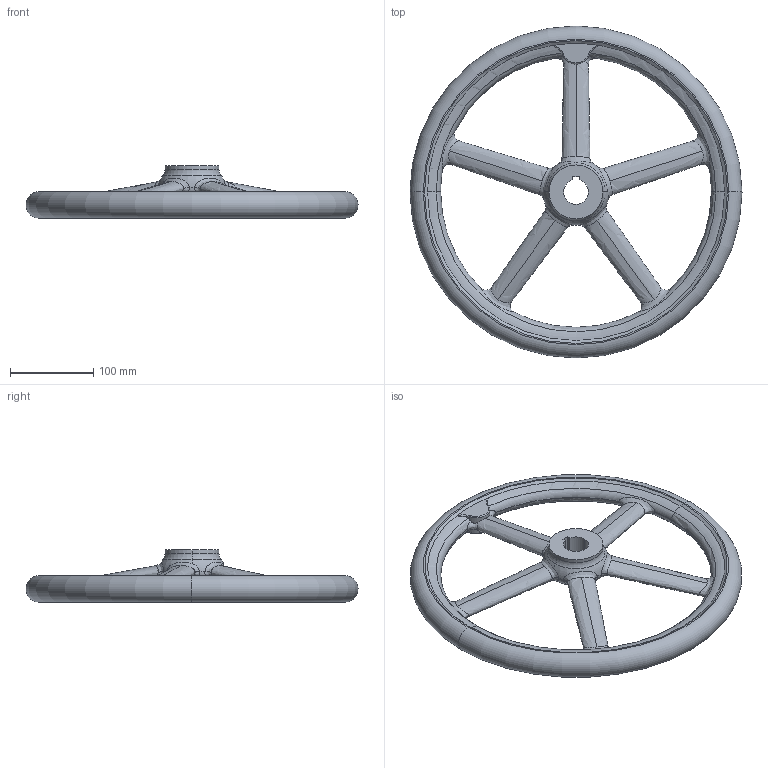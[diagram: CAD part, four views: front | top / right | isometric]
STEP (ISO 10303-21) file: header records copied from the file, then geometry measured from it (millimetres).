
FILE_DESCRIPTION (( 'STEP AP214' ), '1' );
FILE_NAME ('950-GG-400-K30-A.step', '2020-05-18T07:29:02', ( '' ), ( '' ), 'SwSTEP 2.0', 'SolidWorks 2019', '' );
FILE_SCHEMA (( 'AUTOMOTIVE_DESIGN' ));
Length unit declared in the file: millimetre
Products named in the file (1): 950-GG-400-K30-A
Bounding box: 400 x 400 x 63 mm (x, y, z)
Volume: 1378509.8 mm3; surface area: 187440.4 mm2
Topology: 1 solids, 1 shells, 100 faces, 267 edges, 161 vertices
Faces by surface type: bspline 40, torus 36, cylinder 11, plane 9, cone 4
Entity records: 12356 total; most frequent: CARTESIAN_POINT 10109, ORIENTED_EDGE 534, DIRECTION 394, EDGE_CURVE 267, AXIS2_PLACEMENT_3D 186, VERTEX_POINT 161, CIRCLE 125, B_SPLINE_CURVE_WITH_KNOTS 120
